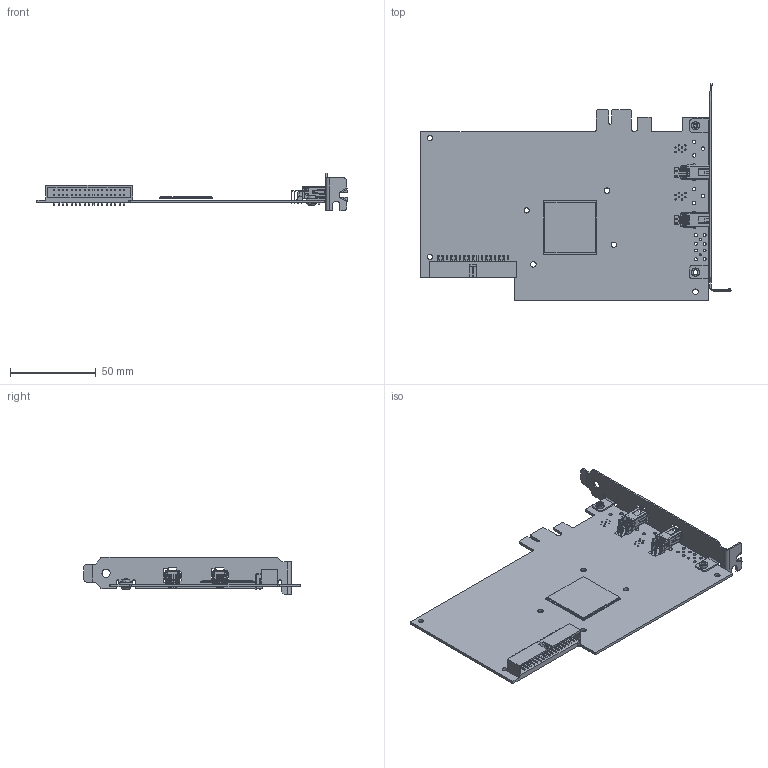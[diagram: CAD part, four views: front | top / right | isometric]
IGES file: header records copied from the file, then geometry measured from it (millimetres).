
Start section:  PTC IGES file: cu_pcie-8510-2ch.igs
Global section: file name: cu_pcie-8510-2ch.igs; native system: Creo Parametric by PTC Inc.; preprocessor: 2015380; author: huydo; organization: Unknown; date: 20170815.123947; units: inch
Bounding box: 180.92 x 126.32 x 21.59 mm (x, y, z)
Surface area: 46098.9 mm2 (no closed solid volume)
Topology: 0 solids, 0 shells, 2078 faces, 12152 edges, 12131 vertices
Faces by surface type: bspline 1336, revolution 736, extrusion 6
